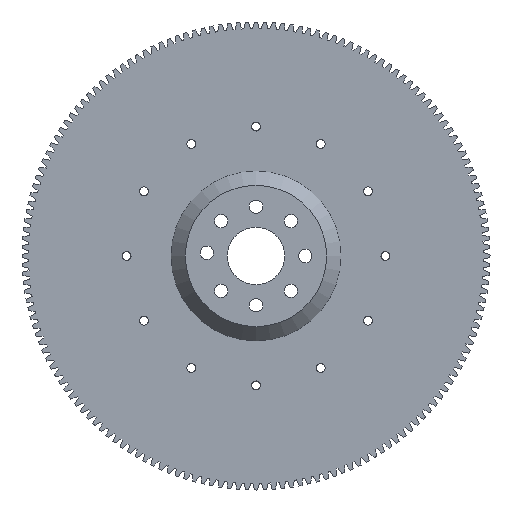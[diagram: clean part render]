
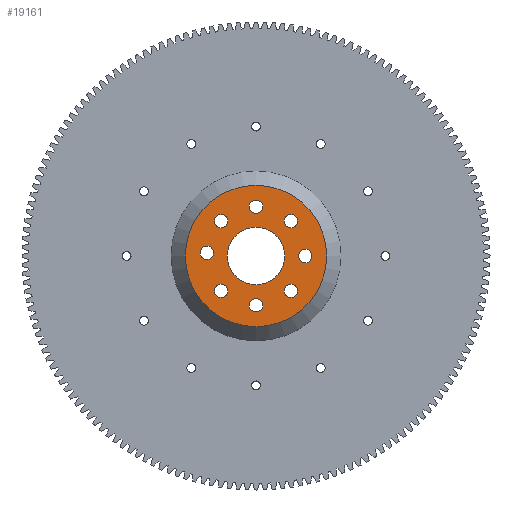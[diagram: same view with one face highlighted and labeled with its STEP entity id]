
A CAD part, left-side view. The second image highlights one B-rep face of the part: STEP entity #19161.
In plain terms, the highlighted planar face has unit normal (-1, 0, 0).
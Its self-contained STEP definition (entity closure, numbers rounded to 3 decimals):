
#536=PLANE('',#20248);
#7809=ORIENTED_EDGE('',*,*,#9884,.F.);
#7810=ORIENTED_EDGE('',*,*,#9887,.F.);
#7811=ORIENTED_EDGE('',*,*,#9890,.F.);
#7812=ORIENTED_EDGE('',*,*,#9893,.F.);
#7813=ORIENTED_EDGE('',*,*,#9896,.F.);
#7814=ORIENTED_EDGE('',*,*,#9899,.F.);
#7815=ORIENTED_EDGE('',*,*,#9914,.F.);
#7816=ORIENTED_EDGE('',*,*,#9915,.F.);
#7817=ORIENTED_EDGE('',*,*,#9916,.T.);
#7818=ORIENTED_EDGE('',*,*,#9912,.F.);
#9884=EDGE_CURVE('',#11270,#11270,#11670,.T.);
#9887=EDGE_CURVE('',#11273,#11273,#11673,.T.);
#9890=EDGE_CURVE('',#11276,#11276,#11676,.T.);
#9893=EDGE_CURVE('',#11279,#11279,#11679,.T.);
#9896=EDGE_CURVE('',#11282,#11282,#11682,.T.);
#9899=EDGE_CURVE('',#11285,#11285,#11685,.T.);
#9912=EDGE_CURVE('',#11298,#11298,#11698,.T.);
#9914=EDGE_CURVE('',#11300,#11300,#11700,.T.);
#9915=EDGE_CURVE('',#11301,#11301,#11701,.T.);
#9916=EDGE_CURVE('',#11302,#11302,#11702,.T.);
#11270=VERTEX_POINT('',#28131);
#11273=VERTEX_POINT('',#28139);
#11276=VERTEX_POINT('',#28147);
#11279=VERTEX_POINT('',#28155);
#11282=VERTEX_POINT('',#28163);
#11285=VERTEX_POINT('',#28171);
#11298=VERTEX_POINT('',#28210);
#11300=VERTEX_POINT('',#28215);
#11301=VERTEX_POINT('',#28217);
#11302=VERTEX_POINT('',#28219);
#11670=CIRCLE('',#20195,5.156);
#11673=CIRCLE('',#20200,5.156);
#11676=CIRCLE('',#20205,5.156);
#11679=CIRCLE('',#20210,5.156);
#11682=CIRCLE('',#20215,5.156);
#11685=CIRCLE('',#20220,5.156);
#11698=CIRCLE('',#20246,22.231);
#11700=CIRCLE('',#20249,5.156);
#11701=CIRCLE('',#20250,5.156);
#11702=CIRCLE('',#20251,54.61);
#12444=EDGE_LOOP('',(#7809));
#12445=EDGE_LOOP('',(#7810));
#12446=EDGE_LOOP('',(#7811));
#12447=EDGE_LOOP('',(#7812));
#12448=EDGE_LOOP('',(#7813));
#12449=EDGE_LOOP('',(#7814));
#12450=EDGE_LOOP('',(#7815));
#12451=EDGE_LOOP('',(#7816));
#12452=EDGE_LOOP('',(#7817));
#12453=EDGE_LOOP('',(#7818));
#13246=FACE_BOUND('',#12444,.T.);
#13247=FACE_BOUND('',#12445,.T.);
#13248=FACE_BOUND('',#12446,.T.);
#13249=FACE_BOUND('',#12447,.T.);
#13250=FACE_BOUND('',#12448,.T.);
#13251=FACE_BOUND('',#12449,.T.);
#13252=FACE_BOUND('',#12450,.T.);
#13253=FACE_BOUND('',#12451,.T.);
#13254=FACE_BOUND('',#12452,.T.);
#13255=FACE_BOUND('',#12453,.T.);
#19161=ADVANCED_FACE('',(#13246,#13247,#13248,#13249,#13250,#13251,#13252,
#13253,#13254,#13255),#536,.T.);
#20195=AXIS2_PLACEMENT_3D('',#28130,#23943,#23944);
#20200=AXIS2_PLACEMENT_3D('',#28138,#23953,#23954);
#20205=AXIS2_PLACEMENT_3D('',#28146,#23963,#23964);
#20210=AXIS2_PLACEMENT_3D('',#28154,#23973,#23974);
#20215=AXIS2_PLACEMENT_3D('',#28162,#23983,#23984);
#20220=AXIS2_PLACEMENT_3D('',#28170,#23993,#23994);
#20246=AXIS2_PLACEMENT_3D('',#28209,#24045,#24046);
#20248=AXIS2_PLACEMENT_3D('',#28213,#24049,#24050);
#20249=AXIS2_PLACEMENT_3D('',#28214,#24051,#24052);
#20250=AXIS2_PLACEMENT_3D('',#28216,#24053,#24054);
#20251=AXIS2_PLACEMENT_3D('',#28218,#24055,#24056);
#23943=DIRECTION('',(-1.,0.,0.));
#23944=DIRECTION('',(0.,1.,0.));
#23953=DIRECTION('',(-1.,0.,0.));
#23954=DIRECTION('',(0.,0.707,-0.707));
#23963=DIRECTION('',(-1.,0.,0.));
#23964=DIRECTION('',(0.,0.,-1.));
#23973=DIRECTION('',(-1.,0.,0.));
#23974=DIRECTION('',(0.,-0.707,-0.707));
#23983=DIRECTION('',(-1.,0.,0.));
#23984=DIRECTION('',(0.,-1.,0.));
#23993=DIRECTION('',(-1.,0.,0.));
#23994=DIRECTION('',(0.,-0.707,0.707));
#24045=DIRECTION('',(-1.,0.,0.));
#24046=DIRECTION('',(0.,0.,1.));
#24049=DIRECTION('',(-1.,0.,0.));
#24050=DIRECTION('',(0.,0.,1.));
#24051=DIRECTION('',(-1.,0.,0.));
#24052=DIRECTION('',(0.,0.,1.));
#24053=DIRECTION('',(-1.,0.,0.));
#24054=DIRECTION('',(0.,0.,1.));
#24055=DIRECTION('',(-1.,0.,0.));
#24056=DIRECTION('',(0.,0.,1.));
#28130=CARTESIAN_POINT('',(0.,26.941,-26.941));
#28131=CARTESIAN_POINT('',(0.,32.097,-26.941));
#28138=CARTESIAN_POINT('',(0.,0.,-38.1));
#28139=CARTESIAN_POINT('',(0.,3.646,-41.746));
#28146=CARTESIAN_POINT('',(0.,-26.941,-26.941));
#28147=CARTESIAN_POINT('',(0.,-26.941,-32.097));
#28154=CARTESIAN_POINT('',(0.,-38.1,0.));
#28155=CARTESIAN_POINT('',(0.,-41.746,-3.646));
#28162=CARTESIAN_POINT('',(0.,-26.941,26.941));
#28163=CARTESIAN_POINT('',(0.,-32.097,26.941));
#28170=CARTESIAN_POINT('',(0.,0.,38.1));
#28171=CARTESIAN_POINT('',(0.,-3.646,41.746));
#28209=CARTESIAN_POINT('',(0.,0.,0.));
#28210=CARTESIAN_POINT('',(0.,0.,22.231));
#28213=CARTESIAN_POINT('',(0.,0.,22.231));
#28214=CARTESIAN_POINT('',(0.,38.018,2.499));
#28215=CARTESIAN_POINT('',(0.,38.018,7.656));
#28216=CARTESIAN_POINT('',(0.,26.941,26.941));
#28217=CARTESIAN_POINT('',(0.,26.941,32.097));
#28218=CARTESIAN_POINT('',(0.,0.,0.));
#28219=CARTESIAN_POINT('',(0.,0.,54.61));
